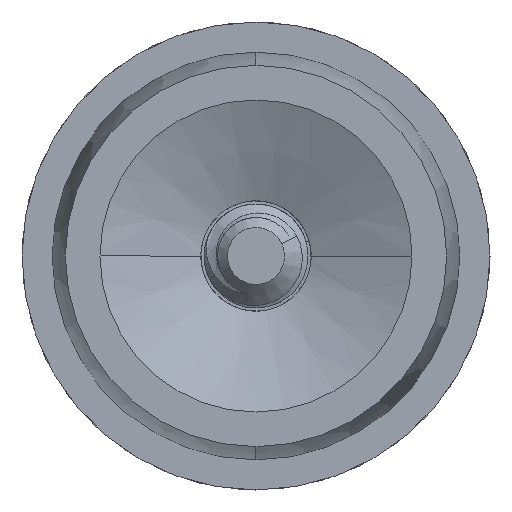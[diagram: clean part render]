
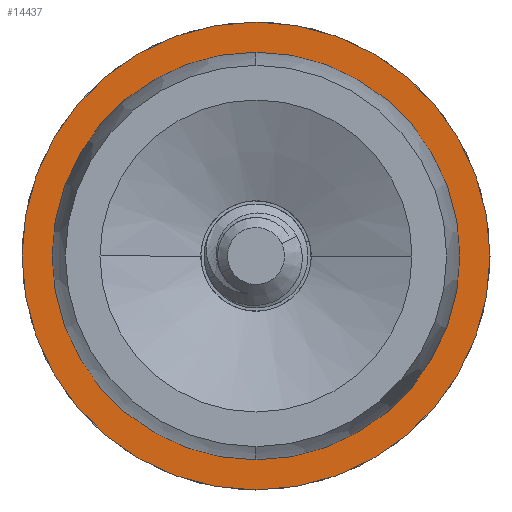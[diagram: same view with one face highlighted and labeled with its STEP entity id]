
A CAD part, left-side view. The second image highlights one B-rep face of the part: STEP entity #14437.
In plain terms, the highlighted planar face has unit normal (-1, 0, 0).
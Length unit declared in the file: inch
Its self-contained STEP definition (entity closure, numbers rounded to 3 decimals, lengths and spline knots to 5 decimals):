
#30 = VERTEX_POINT ( 'NONE', #10949 ) ;
#647 = DIRECTION ( 'NONE',  ( -1., 0., 0. ) ) ;
#1004 = DIRECTION ( 'NONE',  ( 0., 0., 1. ) ) ;
#1075 = ORIENTED_EDGE ( 'NONE', *, *, #3932, .T. ) ;
#1383 = VERTEX_POINT ( 'NONE', #2158 ) ;
#2113 = CIRCLE ( 'NONE', #16482, 0.5625 ) ;
#2158 = CARTESIAN_POINT ( 'NONE',  ( -0.25, 0., 0.5625 ) ) ;
#2235 = CIRCLE ( 'NONE', #6565, 0.49 ) ;
#2255 = DIRECTION ( 'NONE',  ( -1., 0., 0. ) ) ;
#2282 = CARTESIAN_POINT ( 'NONE',  ( -0.25, 0., 0. ) ) ;
#2614 = EDGE_LOOP ( 'NONE', ( #1075, #11729 ) ) ;
#2926 = CARTESIAN_POINT ( 'NONE',  ( -0.25, 0., 0. ) ) ;
#3434 = EDGE_CURVE ( 'NONE', #8596, #1383, #14448, .T. ) ;
#3558 = DIRECTION ( 'NONE',  ( 0., 0., 1. ) ) ;
#3932 = EDGE_CURVE ( 'NONE', #1383, #8596, #2113, .T. ) ;
#4374 = DIRECTION ( 'NONE',  ( 0., 0., 1. ) ) ;
#4847 = EDGE_LOOP ( 'NONE', ( #13422, #10620 ) ) ;
#5021 = AXIS2_PLACEMENT_3D ( 'NONE', #17971, #9583, #1004 ) ;
#5623 = AXIS2_PLACEMENT_3D ( 'NONE', #2926, #12936, #4374 ) ;
#5908 = CIRCLE ( 'NONE', #5623, 0.49 ) ;
#6267 = VERTEX_POINT ( 'NONE', #7326 ) ;
#6565 = AXIS2_PLACEMENT_3D ( 'NONE', #9238, #647, #10700 ) ;
#7326 = CARTESIAN_POINT ( 'NONE',  ( -0.25, 0., -0.49 ) ) ;
#8596 = VERTEX_POINT ( 'NONE', #13503 ) ;
#9238 = CARTESIAN_POINT ( 'NONE',  ( -0.25, 0., 0. ) ) ;
#9351 = EDGE_CURVE ( 'NONE', #30, #6267, #5908, .T. ) ;
#9519 = PLANE ( 'NONE',  #5021 ) ;
#9583 = DIRECTION ( 'NONE',  ( -1., 0., 0. ) ) ;
#10436 = FACE_OUTER_BOUND ( 'NONE', #2614, .T. ) ;
#10620 = ORIENTED_EDGE ( 'NONE', *, *, #12339, .F. ) ;
#10700 = DIRECTION ( 'NONE',  ( 0., 0., 1. ) ) ;
#10871 = AXIS2_PLACEMENT_3D ( 'NONE', #2282, #2255, #3558 ) ;
#10949 = CARTESIAN_POINT ( 'NONE',  ( -0.25, 0., 0.49 ) ) ;
#11729 = ORIENTED_EDGE ( 'NONE', *, *, #3434, .T. ) ;
#12339 = EDGE_CURVE ( 'NONE', #6267, #30, #2235, .T. ) ;
#12936 = DIRECTION ( 'NONE',  ( -1., 0., 0. ) ) ;
#13422 = ORIENTED_EDGE ( 'NONE', *, *, #9351, .F. ) ;
#13503 = CARTESIAN_POINT ( 'NONE',  ( -0.25, 0., -0.5625 ) ) ;
#14437 = ADVANCED_FACE ( 'NONE', ( #17863, #10436 ), #9519, .T. ) ;
#14448 = CIRCLE ( 'NONE', #10871, 0.5625 ) ;
#16482 = AXIS2_PLACEMENT_3D ( 'NONE', #17266, #17250, #17241 ) ;
#17241 = DIRECTION ( 'NONE',  ( 0., 0., 1. ) ) ;
#17250 = DIRECTION ( 'NONE',  ( -1., 0., 0. ) ) ;
#17266 = CARTESIAN_POINT ( 'NONE',  ( -0.25, 0., 0. ) ) ;
#17863 = FACE_BOUND ( 'NONE', #4847, .T. ) ;
#17971 = CARTESIAN_POINT ( 'NONE',  ( -0.25, 0., -0.49 ) ) ;
